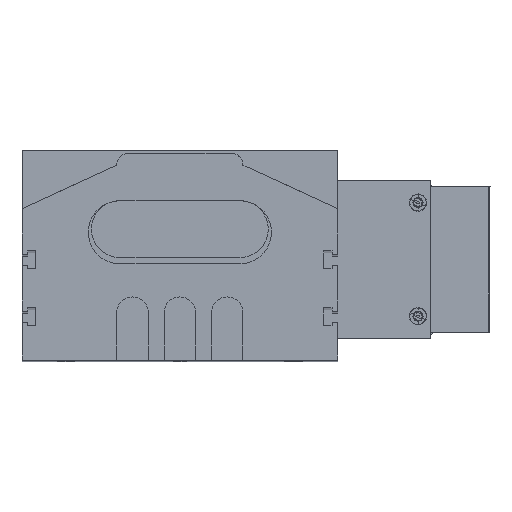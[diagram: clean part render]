
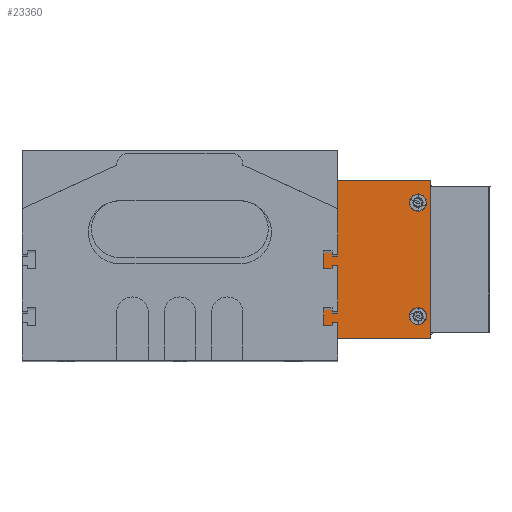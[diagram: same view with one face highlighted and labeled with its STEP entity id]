
A CAD part, top view. The second image highlights one B-rep face of the part: STEP entity #23360.
In plain terms, the highlighted planar face has unit normal (0, 0, 1) as drawn and (0, -1, 0) by its records, which use the part's own axes.
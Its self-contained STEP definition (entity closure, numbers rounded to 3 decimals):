
#2765 = CARTESIAN_POINT ( 'NONE',  ( -39., -2., 12.75 ) ) ;
#2769 = DIRECTION ( 'NONE',  ( 0., 0., -1. ) ) ;
#2770 = DIRECTION ( 'NONE',  ( 0., -1., 0. ) ) ;
#2771 = CARTESIAN_POINT ( 'NONE',  ( -39., -2., 10. ) ) ;
#2772 = AXIS2_PLACEMENT_3D ( 'NONE', #2771, #2770, #2769 ) ;
#2785 = CIRCLE ( 'NONE', #2772, 2.75 ) ;
#2817 = CARTESIAN_POINT ( 'NONE',  ( -39., -2., 7.25 ) ) ;
#4030 = CARTESIAN_POINT ( 'NONE',  ( -39., -2., -7.25 ) ) ;
#4117 = CIRCLE ( 'NONE', #4183, 2.75 ) ;
#4122 = CARTESIAN_POINT ( 'NONE',  ( -39., -2., -10. ) ) ;
#4164 = CARTESIAN_POINT ( 'NONE',  ( -39., -2., -12.75 ) ) ;
#4179 = DIRECTION ( 'NONE',  ( 0., 0., -1. ) ) ;
#4180 = DIRECTION ( 'NONE',  ( 0., -1., 0. ) ) ;
#4183 = AXIS2_PLACEMENT_3D ( 'NONE', #4122, #4180, #4179 ) ;
#4465 = DIRECTION ( 'NONE',  ( 0., 0., -1. ) ) ;
#4466 = DIRECTION ( 'NONE',  ( 0., -1., 0. ) ) ;
#4467 = CARTESIAN_POINT ( 'NONE',  ( 20.2, -2., 18. ) ) ;
#4468 = AXIS2_PLACEMENT_3D ( 'NONE', #4467, #4466, #4465 ) ;
#4469 = CARTESIAN_POINT ( 'NONE',  ( 20.2, -2., -20.75 ) ) ;
#4471 = CIRCLE ( 'NONE', #4468, 2.75 ) ;
#4493 = CARTESIAN_POINT ( 'NONE',  ( 20.2, -2., 15.25 ) ) ;
#4502 = CARTESIAN_POINT ( 'NONE',  ( 20.2, -2., -15.25 ) ) ;
#4506 = CIRCLE ( 'NONE', #4547, 2.75 ) ;
#4519 = CARTESIAN_POINT ( 'NONE',  ( 20.2, -2., 20.75 ) ) ;
#4522 = CIRCLE ( 'NONE', #4541, 2.75 ) ;
#4524 = DIRECTION ( 'NONE',  ( 0., 0., -1. ) ) ;
#4525 = DIRECTION ( 'NONE',  ( 0., -1., 0. ) ) ;
#4526 = PLANE ( 'NONE',  #4585 ) ;
#4528 = FACE_BOUND ( 'NONE', #23414, .T. ) ;
#4535 = CARTESIAN_POINT ( 'NONE',  ( 20.2, -2., 18. ) ) ;
#4537 = CIRCLE ( 'NONE', #4544, 2.75 ) ;
#4538 = DIRECTION ( 'NONE',  ( 0., 0., -1. ) ) ;
#4539 = DIRECTION ( 'NONE',  ( 0., -1., 0. ) ) ;
#4540 = CARTESIAN_POINT ( 'NONE',  ( 20.2, -2., -18. ) ) ;
#4541 = AXIS2_PLACEMENT_3D ( 'NONE', #4540, #4539, #4538 ) ;
#4542 = CARTESIAN_POINT ( 'NONE',  ( 24., -2., 25. ) ) ;
#4543 = LINE ( 'NONE', #4542, #4575 ) ;
#4544 = AXIS2_PLACEMENT_3D ( 'NONE', #4535, #4525, #4524 ) ;
#4545 = DIRECTION ( 'NONE',  ( 0., 0., -1. ) ) ;
#4546 = DIRECTION ( 'NONE',  ( 0., -1., 0. ) ) ;
#4547 = AXIS2_PLACEMENT_3D ( 'NONE', #4551, #4546, #4545 ) ;
#4551 = CARTESIAN_POINT ( 'NONE',  ( 20.2, -2., -18. ) ) ;
#4567 = DIRECTION ( 'NONE',  ( 0., 0., 1. ) ) ;
#4568 = DIRECTION ( 'NONE',  ( 0., 1., 0. ) ) ;
#4569 = CARTESIAN_POINT ( 'NONE',  ( 37., -2., -25. ) ) ;
#4571 = CARTESIAN_POINT ( 'NONE',  ( 24., -2., 25. ) ) ;
#4573 = FACE_BOUND ( 'NONE', #22486, .T. ) ;
#4574 = DIRECTION ( 'NONE',  ( 0., 0., -1. ) ) ;
#4575 = VECTOR ( 'NONE', #4574, 1000. ) ;
#4576 = FACE_BOUND ( 'NONE', #23426, .T. ) ;
#4577 = FACE_BOUND ( 'NONE', #23420, .T. ) ;
#4580 = FACE_OUTER_BOUND ( 'NONE', #23362, .T. ) ;
#4585 = AXIS2_PLACEMENT_3D ( 'NONE', #4569, #4568, #4567 ) ;
#4600 = CARTESIAN_POINT ( 'NONE',  ( 24., -2., -25. ) ) ;
#4601 = DIRECTION ( 'NONE',  ( 0., 0., 1. ) ) ;
#4602 = VECTOR ( 'NONE', #4601, 1000. ) ;
#4609 = DIRECTION ( 'NONE',  ( 1., 0., 0. ) ) ;
#4610 = VECTOR ( 'NONE', #4609, 1000. ) ;
#4611 = CARTESIAN_POINT ( 'NONE',  ( -37., -2., 25. ) ) ;
#4613 = CARTESIAN_POINT ( 'NONE',  ( -42., -2., -25. ) ) ;
#4614 = LINE ( 'NONE', #4613, #4602 ) ;
#4620 = LINE ( 'NONE', #4611, #4610 ) ;
#4626 = CARTESIAN_POINT ( 'NONE',  ( -39., -2., -10. ) ) ;
#4649 = CARTESIAN_POINT ( 'NONE',  ( -42., -2., 25. ) ) ;
#4651 = DIRECTION ( 'NONE',  ( 0., -1., 0. ) ) ;
#4652 = CARTESIAN_POINT ( 'NONE',  ( -39., -2., 10. ) ) ;
#4653 = AXIS2_PLACEMENT_3D ( 'NONE', #4652, #4651, #4712 ) ;
#4660 = CARTESIAN_POINT ( 'NONE',  ( -42., -2., -25. ) ) ;
#4661 = DIRECTION ( 'NONE',  ( -1., 0., 0. ) ) ;
#4662 = VECTOR ( 'NONE', #4661, 1000. ) ;
#4663 = CARTESIAN_POINT ( 'NONE',  ( 37., -2., -25. ) ) ;
#4664 = LINE ( 'NONE', #4663, #4662 ) ;
#4666 = CIRCLE ( 'NONE', #4653, 2.75 ) ;
#4667 = DIRECTION ( 'NONE',  ( 0., 0., -1. ) ) ;
#4668 = DIRECTION ( 'NONE',  ( 0., -1., 0. ) ) ;
#4669 = AXIS2_PLACEMENT_3D ( 'NONE', #4626, #4668, #4667 ) ;
#4672 = CIRCLE ( 'NONE', #4669, 2.75 ) ;
#4712 = DIRECTION ( 'NONE',  ( 0., 0., -1. ) ) ;
#22408 = VERTEX_POINT ( 'NONE', #2765 ) ;
#22414 = EDGE_CURVE ( 'NONE', #22408, #22434, #2785, .T. ) ;
#22434 = VERTEX_POINT ( 'NONE', #2817 ) ;
#22436 = ORIENTED_EDGE ( 'NONE', *, *, #22414, .F. ) ;
#22486 = EDGE_LOOP ( 'NONE', ( #23406, #23416 ) ) ;
#23072 = VERTEX_POINT ( 'NONE', #4030 ) ;
#23125 = EDGE_CURVE ( 'NONE', #23072, #23135, #4117, .T. ) ;
#23135 = VERTEX_POINT ( 'NONE', #4164 ) ;
#23283 = VERTEX_POINT ( 'NONE', #4493 ) ;
#23301 = EDGE_CURVE ( 'NONE', #23308, #23283, #4471, .T. ) ;
#23304 = VERTEX_POINT ( 'NONE', #4469 ) ;
#23308 = VERTEX_POINT ( 'NONE', #4519 ) ;
#23336 = EDGE_CURVE ( 'NONE', #23304, #23341, #4506, .T. ) ;
#23341 = VERTEX_POINT ( 'NONE', #4502 ) ;
#23345 = EDGE_CURVE ( 'NONE', #23341, #23304, #4522, .T. ) ;
#23351 = EDGE_CURVE ( 'NONE', #23283, #23308, #4537, .T. ) ;
#23359 = EDGE_CURVE ( 'NONE', #23369, #23377, #4543, .T. ) ;
#23360 = ADVANCED_FACE ( 'NONE', ( #4580, #4576, #4573, #4577, #4528 ), #4526, .F. ) ;
#23362 = EDGE_LOOP ( 'NONE', ( #23434, #23371, #23376, #23374 ) ) ;
#23368 = EDGE_CURVE ( 'NONE', #23391, #23369, #4620, .T. ) ;
#23369 = VERTEX_POINT ( 'NONE', #4571 ) ;
#23371 = ORIENTED_EDGE ( 'NONE', *, *, #23368, .F. ) ;
#23374 = ORIENTED_EDGE ( 'NONE', *, *, #23429, .F. ) ;
#23375 = EDGE_CURVE ( 'NONE', #23432, #23391, #4614, .T. ) ;
#23376 = ORIENTED_EDGE ( 'NONE', *, *, #23375, .F. ) ;
#23377 = VERTEX_POINT ( 'NONE', #4600 ) ;
#23391 = VERTEX_POINT ( 'NONE', #4649 ) ;
#23392 = ORIENTED_EDGE ( 'NONE', *, *, #23435, .F. ) ;
#23399 = ORIENTED_EDGE ( 'NONE', *, *, #23345, .F. ) ;
#23406 = ORIENTED_EDGE ( 'NONE', *, *, #23424, .F. ) ;
#23407 = ORIENTED_EDGE ( 'NONE', *, *, #23351, .F. ) ;
#23413 = ORIENTED_EDGE ( 'NONE', *, *, #23301, .F. ) ;
#23414 = EDGE_LOOP ( 'NONE', ( #23407, #23413 ) ) ;
#23416 = ORIENTED_EDGE ( 'NONE', *, *, #23125, .F. ) ;
#23417 = ORIENTED_EDGE ( 'NONE', *, *, #23336, .F. ) ;
#23420 = EDGE_LOOP ( 'NONE', ( #23417, #23399 ) ) ;
#23424 = EDGE_CURVE ( 'NONE', #23135, #23072, #4672, .T. ) ;
#23426 = EDGE_LOOP ( 'NONE', ( #23392, #22436 ) ) ;
#23429 = EDGE_CURVE ( 'NONE', #23377, #23432, #4664, .T. ) ;
#23432 = VERTEX_POINT ( 'NONE', #4660 ) ;
#23434 = ORIENTED_EDGE ( 'NONE', *, *, #23359, .F. ) ;
#23435 = EDGE_CURVE ( 'NONE', #22434, #22408, #4666, .T. ) ;
